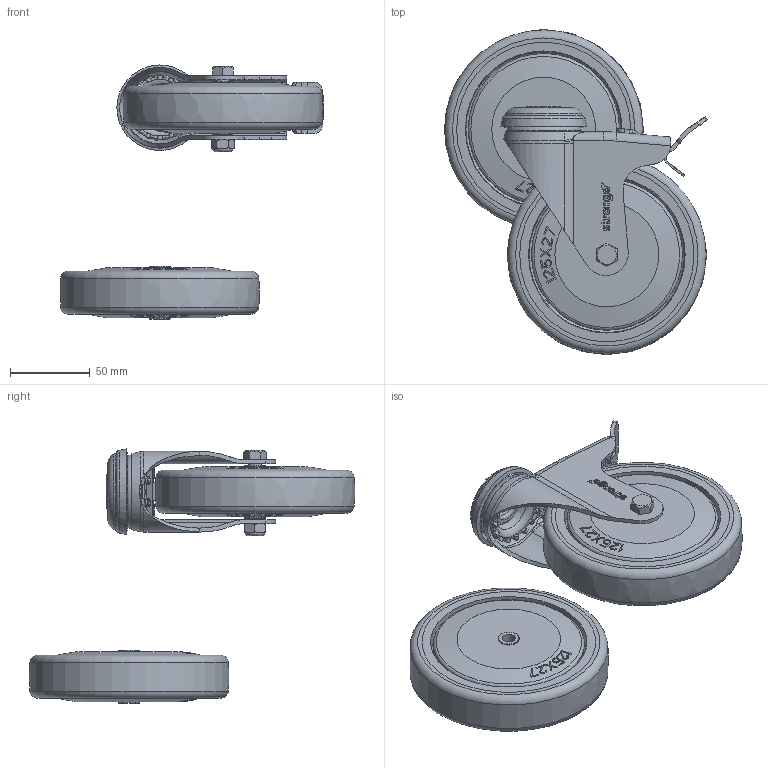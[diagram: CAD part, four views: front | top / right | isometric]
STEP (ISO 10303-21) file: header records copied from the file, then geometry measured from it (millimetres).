
FILE_DESCRIPTION(('STEP AP203'),'1');
FILE_NAME('E:/Pomoc/Strongo/344h39J125rZLC.stp',' ',(' '),(' '),'XStep 1.0',' ',' ');
FILE_SCHEMA(('CONFIG_CONTROL_DESIGN'));
Length unit declared in the file: metre
Products named in the file (3): Assembly129; Assembly168; Next assembly relationship
Bounding box: 164.55 x 203.75 x 159.08 mm (x, y, z)
Volume: 488434.2 mm3; surface area: 328955.5 mm2
Topology: 130 solids, 130 shells, 3927 faces, 11045 edges, 7338 vertices
Faces by surface type: plane 2585, cylinder 553, torus 235, cone 231, bspline 219, sphere 104
Full cylindrical faces by diameter (mm): 2.076 x4, 4.014 x2, 5 x2, 5.85 x2, 7 x1, 7.9 x2, 8 x21, 8.25 x4, 12 x6, 12.5 x3, 13.2 x4, 16 x2, 16.3 x4, 17.4 x4, 18 x4, 21.58 x2, 22 x2, 26 x4, 29 x4, 32 x6, 92.5 x4, 94.5 x4, 109 x4
Entity records: 67945 total; most frequent: CARTESIAN_POINT 22963, ORIENTED_EDGE 9702, DIRECTION 8396, EDGE_CURVE 4851, LINE 3314, VECTOR 3314, VERTEX_POINT 3268, AXIS2_PLACEMENT_3D 2541
